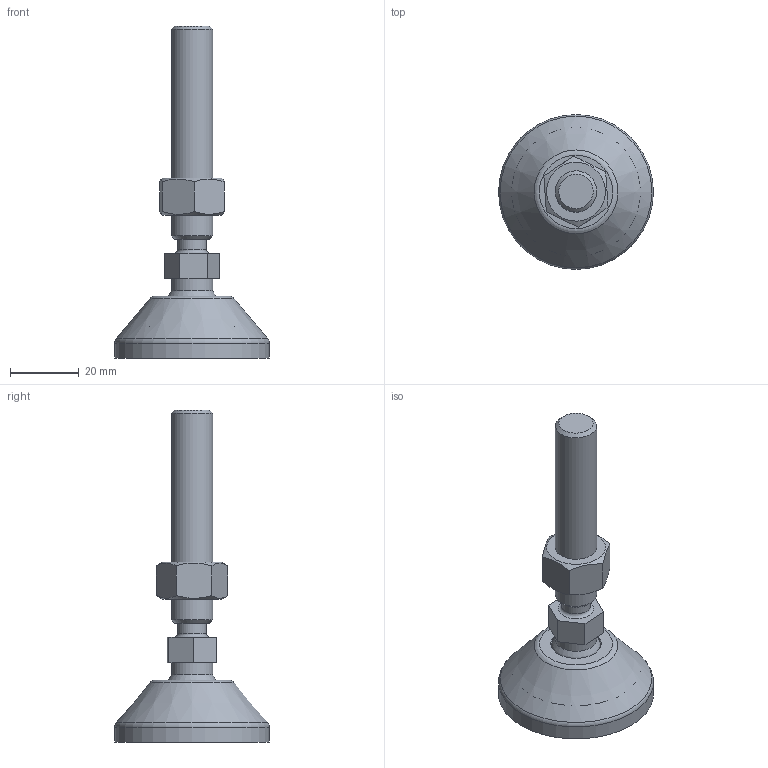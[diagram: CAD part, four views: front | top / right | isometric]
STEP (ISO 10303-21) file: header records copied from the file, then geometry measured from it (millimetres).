
FILE_DESCRIPTION(('STEP AP203'), '1');
FILE_NAME('栖闉罻', '', ('UNSPECIFIED'), ('UNSPECIFIED'), 'C3D Converter', 'C3D Toolkit', '');
FILE_SCHEMA(('CONFIG_CONTROL_DESIGN'));
Length unit declared in the file: millimetre
Products named in the file (4): A00015.1045; A00020.112066
Assembly tree (3 placements, depth 3):
  (unnamed)
    A00015.1045
    A00020.112066
      (unnamed)
Bounding box: 45 x 45 x 96.5 mm (x, y, z)
Volume: 24502.8 mm3; surface area: 11750.7 mm2
Topology: 3 solids, 3 shells, 129 faces, 356 edges, 238 vertices
Faces by surface type: plane 79, cylinder 26, torus 13, cone 9, sphere 2
Full cylindrical faces by diameter (mm): 8.3 x1, 10.647 x1, 12 x2, 14.3 x1, 15 x2, 15.5 x1, 37.3 x1, 45 x1
Entity records: 6911 total; most frequent: CARTESIAN_POINT 2447, DIRECTION 680, ORIENTED_EDGE 658, EDGE_CURVE 329, AXIS2_PLACEMENT_3D 264, VERTEX_POINT 237, EDGE_LOOP 162, LINE 152
